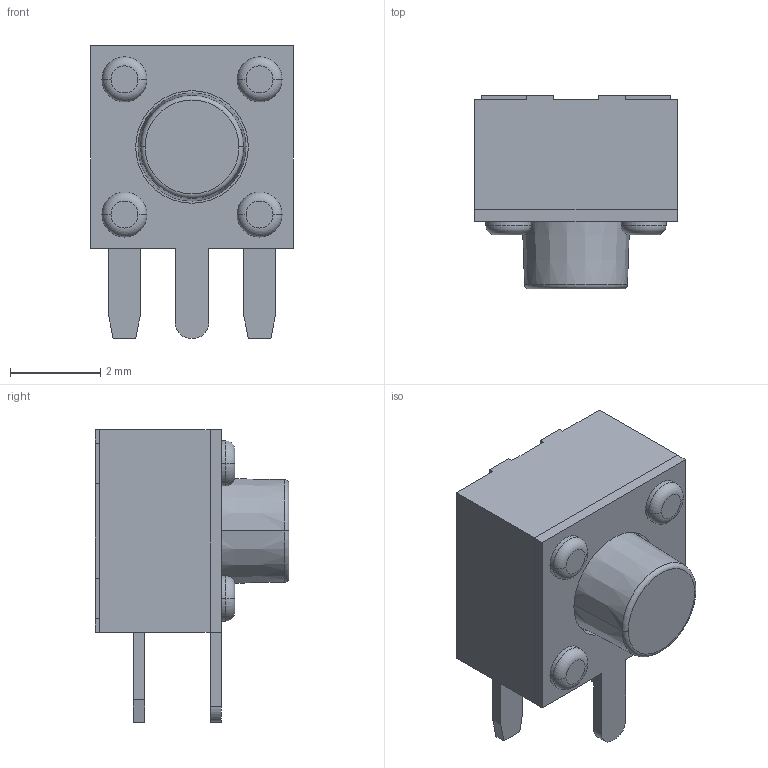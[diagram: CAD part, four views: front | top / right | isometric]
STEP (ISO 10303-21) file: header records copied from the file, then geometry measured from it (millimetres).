
FILE_DESCRIPTION((''),'2;1');
FILE_NAME('JQF4545-B0431-01G-101_ASM','2026-10-08T16:45:51',('Admin'),(''),'CREO PARAMETRIC BY PTC INC, 2019224','CREO PARAMETRIC BY PTC INC, 2019224','');
FILE_SCHEMA(('AUTOMOTIVE_DESIGN { 1 0 10303 214 1 1 1 1 }'));
Length unit declared in the file: millimetre
Products named in the file (3): JQF4545-B0431-01G-101_01; JQF4545-B0431-01G-101_02; JQF4545-B0431-01G-101_ASM
Assembly tree (2 placements, depth 2):
  JQF4545-B0431-01G-101_ASM
    JQF4545-B0431-01G-101_01
    JQF4545-B0431-01G-101_02
Bounding box: 4.5 x 4.3 x 6.5 mm (x, y, z)
Volume: 63.7 mm3; surface area: 156.7 mm2
Topology: 2 solids, 2 shells, 103 faces, 260 edges, 178 vertices
Faces by surface type: plane 63, cylinder 28, torus 10, cone 2
Entity records: 4019 total; most frequent: DIRECTION 568, CARTESIAN_POINT 547, ORIENTED_EDGE 508, EDGE_CURVE 254, PRESENTATION_STYLE_ASSIGNMENT 212, STYLED_ITEM 204, CURVE_STYLE 203, AXIS2_PLACEMENT_3D 194
